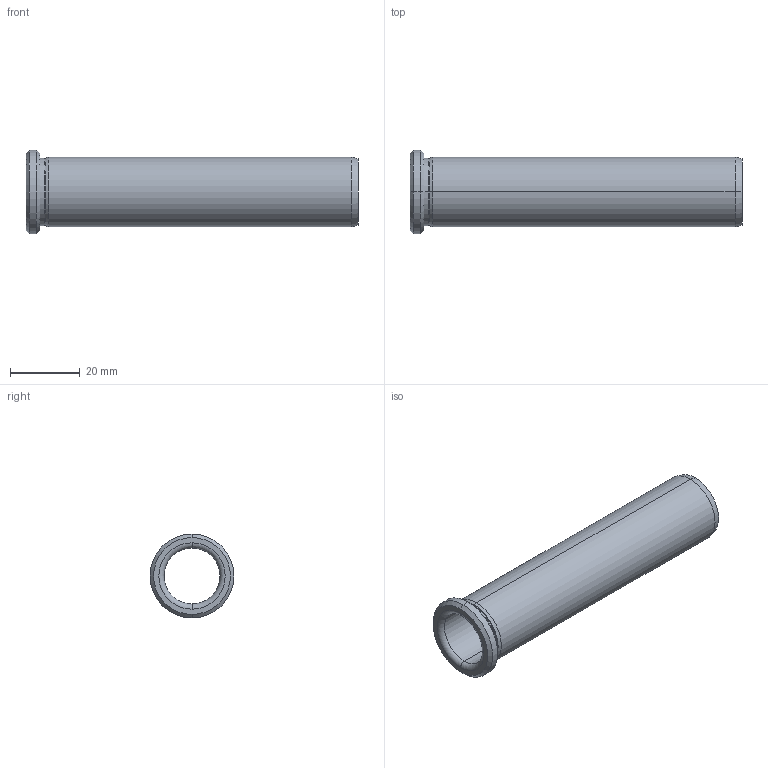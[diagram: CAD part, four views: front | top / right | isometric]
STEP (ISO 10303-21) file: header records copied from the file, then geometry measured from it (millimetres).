
FILE_DESCRIPTION (( 'STEP AP214' ), '1' );
FILE_NAME ('BRCVBG-16x95.STEP', '2020-07-21T12:08:50', ( '' ), ( '' ), 'SwSTEP 2.0', 'SolidWorks 2018', '' );
FILE_SCHEMA (( 'AUTOMOTIVE_DESIGN' ));
Length unit declared in the file: millimetre
Products named in the file (1): BRCVBG-16x95
Bounding box: 95 x 24 x 24 mm (x, y, z)
Volume: 11242.2 mm3; surface area: 11151.2 mm2
Topology: 1 solids, 1 shells, 26 faces, 52 edges, 30 vertices
Faces by surface type: cylinder 10, cone 8, torus 4, plane 4
Entity records: 716 total; most frequent: DIRECTION 140, CARTESIAN_POINT 109, ORIENTED_EDGE 104, AXIS2_PLACEMENT_3D 61, EDGE_CURVE 52, CIRCLE 34, VERTEX_POINT 30, EDGE_LOOP 30
